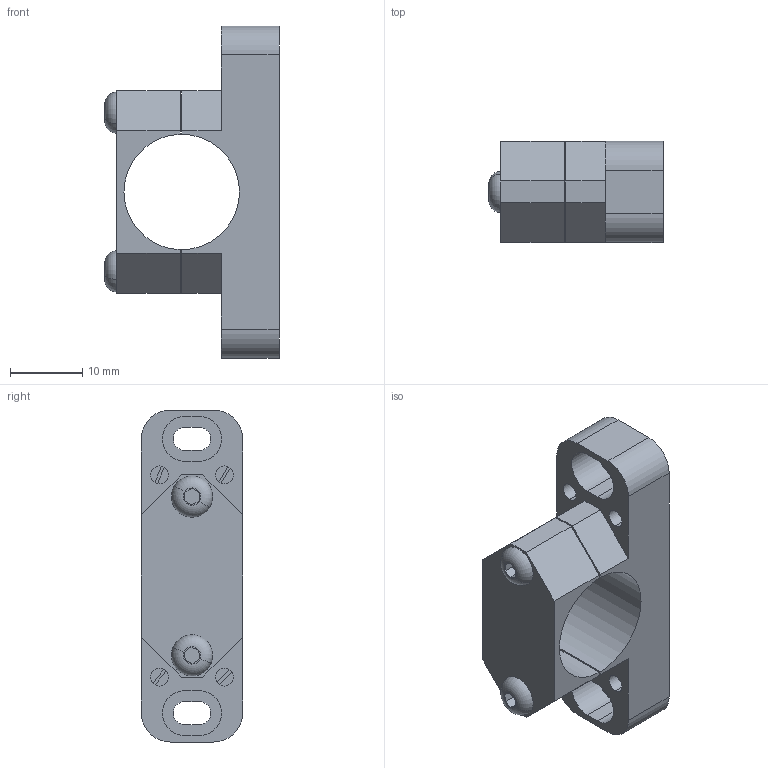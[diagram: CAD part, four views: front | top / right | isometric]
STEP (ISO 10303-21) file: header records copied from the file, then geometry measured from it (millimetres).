
FILE_DESCRIPTION (( 'STEP AP214' ), '1' );
FILE_NAME ('03623.00 Mounting Set, Minispot.STEP', '2023-04-18T12:50:15', ( '' ), ( '' ), 'SwSTEP 2.0', 'SolidWorks 2022', '' );
FILE_SCHEMA (( 'AUTOMOTIVE_DESIGN' ));
Length unit declared in the file: millimetre
Products named in the file (5): 02769.00 Gewindestift M3 5mm, Schlitz mit Kegelstumpf DIN 551; 03480.00 Halter Minispot Grundplatte; 03481.00 Halter Minispot Abdeckung; 03135.00 Linsenkopfschraube ISO7380 M3x16; 03623.00 Mounting Set, Minispot
Assembly tree (8 placements, depth 2):
  03623.00 Mounting Set, Minispot
    03481.00 Halter Minispot Abdeckung
    03480.00 Halter Minispot Grundplatte
    03135.00 Linsenkopfschraube ISO7380 M3x16  x2
    02769.00 Gewindestift M3 5mm, Schlitz mit Kegelstumpf DIN 551  x4
Bounding box: 24.15 x 14 x 46 mm (x, y, z)
Volume: 6421.2 mm3; surface area: 5208.8 mm2
Topology: 8 solids, 8 shells, 138 faces, 336 edges, 220 vertices
Faces by surface type: plane 80, cylinder 42, cone 12, torus 4
Entity records: 3212 total; most frequent: DIRECTION 524, CARTESIAN_POINT 495, ORIENTED_EDGE 472, EDGE_CURVE 236, AXIS2_PLACEMENT_3D 185, VERTEX_POINT 156, VECTOR 154, LINE 154
